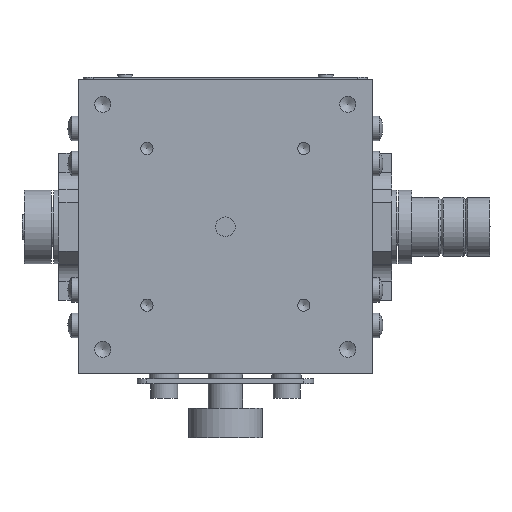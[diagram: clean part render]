
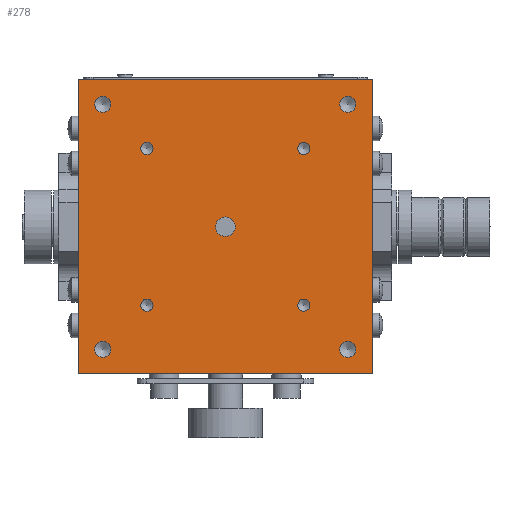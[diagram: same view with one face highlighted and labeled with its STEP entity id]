
A CAD part, top view. The second image highlights one B-rep face of the part: STEP entity #278.
In plain terms, the highlighted planar face has unit normal (0, 0, 1).
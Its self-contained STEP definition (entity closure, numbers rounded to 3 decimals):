
#278 = ADVANCED_FACE( '', ( #631, #632, #633, #634, #635, #636, #637, #638, #639, #640 ), #641, .T. );
#631 = FACE_BOUND( '', #1138, .T. );
#632 = FACE_BOUND( '', #1139, .T. );
#633 = FACE_BOUND( '', #1140, .T. );
#634 = FACE_BOUND( '', #1141, .T. );
#635 = FACE_BOUND( '', #1142, .T. );
#636 = FACE_BOUND( '', #1143, .T. );
#637 = FACE_BOUND( '', #1144, .T. );
#638 = FACE_BOUND( '', #1145, .T. );
#639 = FACE_OUTER_BOUND( '', #1146, .T. );
#640 = FACE_BOUND( '', #1147, .T. );
#641 = PLANE( '', #1148 );
#1138 = EDGE_LOOP( '', ( #2174 ) );
#1139 = EDGE_LOOP( '', ( #2175 ) );
#1140 = EDGE_LOOP( '', ( #2176 ) );
#1141 = EDGE_LOOP( '', ( #2177 ) );
#1142 = EDGE_LOOP( '', ( #2178 ) );
#1143 = EDGE_LOOP( '', ( #2179 ) );
#1144 = EDGE_LOOP( '', ( #2180 ) );
#1145 = EDGE_LOOP( '', ( #2181 ) );
#1146 = EDGE_LOOP( '', ( #2182, #2183, #2184, #2185 ) );
#1147 = EDGE_LOOP( '', ( #2186 ) );
#1148 = AXIS2_PLACEMENT_3D( '', #2187, #2188, #2189 );
#2174 = ORIENTED_EDGE( '', *, *, #2907, .T. );
#2175 = ORIENTED_EDGE( '', *, *, #2908, .T. );
#2176 = ORIENTED_EDGE( '', *, *, #2909, .T. );
#2177 = ORIENTED_EDGE( '', *, *, #2910, .T. );
#2178 = ORIENTED_EDGE( '', *, *, #2911, .T. );
#2179 = ORIENTED_EDGE( '', *, *, #2912, .T. );
#2180 = ORIENTED_EDGE( '', *, *, #2913, .T. );
#2181 = ORIENTED_EDGE( '', *, *, #2914, .T. );
#2182 = ORIENTED_EDGE( '', *, *, #2915, .F. );
#2183 = ORIENTED_EDGE( '', *, *, #2903, .T. );
#2184 = ORIENTED_EDGE( '', *, *, #2916, .T. );
#2185 = ORIENTED_EDGE( '', *, *, #2917, .F. );
#2186 = ORIENTED_EDGE( '', *, *, #2918, .T. );
#2187 = CARTESIAN_POINT( '', ( 0., 0., 25. ) );
#2188 = DIRECTION( '', ( 0., 0., 1. ) );
#2189 = DIRECTION( '', ( -1., 0., 0. ) );
#2903 = EDGE_CURVE( '', #3436, #3434, #3437, .T. );
#2907 = EDGE_CURVE( '', #3443, #3443, #3444, .T. );
#2908 = EDGE_CURVE( '', #3445, #3445, #3446, .T. );
#2909 = EDGE_CURVE( '', #3447, #3447, #3448, .T. );
#2910 = EDGE_CURVE( '', #3449, #3449, #3450, .T. );
#2911 = EDGE_CURVE( '', #3451, #3451, #3452, .T. );
#2912 = EDGE_CURVE( '', #3453, #3453, #3454, .T. );
#2913 = EDGE_CURVE( '', #3455, #3455, #3456, .T. );
#2914 = EDGE_CURVE( '', #3457, #3457, #3458, .T. );
#2915 = EDGE_CURVE( '', #3436, #3459, #3460, .T. );
#2916 = EDGE_CURVE( '', #3434, #3461, #3462, .T. );
#2917 = EDGE_CURVE( '', #3459, #3461, #3463, .T. );
#2918 = EDGE_CURVE( '', #3464, #3464, #3465, .T. );
#3434 = VERTEX_POINT( '', #4456 );
#3436 = VERTEX_POINT( '', #4459 );
#3437 = LINE( '', #4460, #4461 );
#3443 = VERTEX_POINT( '', #4468 );
#3444 = CIRCLE( '', #4469, 1.25 );
#3445 = VERTEX_POINT( '', #4470 );
#3446 = CIRCLE( '', #4471, 1.25 );
#3447 = VERTEX_POINT( '', #4472 );
#3448 = CIRCLE( '', #4473, 1.25 );
#3449 = VERTEX_POINT( '', #4474 );
#3450 = CIRCLE( '', #4475, 1.25 );
#3451 = VERTEX_POINT( '', #4476 );
#3452 = CIRCLE( '', #4477, 1.65 );
#3453 = VERTEX_POINT( '', #4478 );
#3454 = CIRCLE( '', #4479, 1.65 );
#3455 = VERTEX_POINT( '', #4480 );
#3456 = CIRCLE( '', #4481, 1.65 );
#3457 = VERTEX_POINT( '', #4482 );
#3458 = CIRCLE( '', #4483, 1.65 );
#3459 = VERTEX_POINT( '', #4484 );
#3460 = LINE( '', #4485, #4486 );
#3461 = VERTEX_POINT( '', #4487 );
#3462 = LINE( '', #4488, #4489 );
#3463 = LINE( '', #4490, #4491 );
#3464 = VERTEX_POINT( '', #4492 );
#3465 = CIRCLE( '', #4493, 2. );
#4456 = CARTESIAN_POINT( '', ( 30., 30., 25. ) );
#4459 = CARTESIAN_POINT( '', ( 30., -30., 25. ) );
#4460 = CARTESIAN_POINT( '', ( 30., 0., 25. ) );
#4461 = VECTOR( '', #5094, 1000. );
#4468 = CARTESIAN_POINT( '', ( 17.25, -16., 25. ) );
#4469 = AXIS2_PLACEMENT_3D( '', #5102, #5103, #5104 );
#4470 = CARTESIAN_POINT( '', ( 17.25, 16., 25. ) );
#4471 = AXIS2_PLACEMENT_3D( '', #5105, #5106, #5107 );
#4472 = CARTESIAN_POINT( '', ( -14.75, 16., 25. ) );
#4473 = AXIS2_PLACEMENT_3D( '', #5108, #5109, #5110 );
#4474 = CARTESIAN_POINT( '', ( -14.75, -16., 25. ) );
#4475 = AXIS2_PLACEMENT_3D( '', #5111, #5112, #5113 );
#4476 = CARTESIAN_POINT( '', ( 25., -26.65, 25. ) );
#4477 = AXIS2_PLACEMENT_3D( '', #5114, #5115, #5116 );
#4478 = CARTESIAN_POINT( '', ( 25., 23.35, 25. ) );
#4479 = AXIS2_PLACEMENT_3D( '', #5117, #5118, #5119 );
#4480 = CARTESIAN_POINT( '', ( -25., 23.35, 25. ) );
#4481 = AXIS2_PLACEMENT_3D( '', #5120, #5121, #5122 );
#4482 = CARTESIAN_POINT( '', ( -25., -26.65, 25. ) );
#4483 = AXIS2_PLACEMENT_3D( '', #5123, #5124, #5125 );
#4484 = CARTESIAN_POINT( '', ( -30., -30., 25. ) );
#4485 = CARTESIAN_POINT( '', ( 0., -30., 25. ) );
#4486 = VECTOR( '', #5126, 1000. );
#4487 = CARTESIAN_POINT( '', ( -30., 30., 25. ) );
#4488 = CARTESIAN_POINT( '', ( 0., 30., 25. ) );
#4489 = VECTOR( '', #5127, 1000. );
#4490 = CARTESIAN_POINT( '', ( -30., 0., 25. ) );
#4491 = VECTOR( '', #5128, 1000. );
#4492 = CARTESIAN_POINT( '', ( 0., 2., 25. ) );
#4493 = AXIS2_PLACEMENT_3D( '', #5129, #5130, #5131 );
#5094 = DIRECTION( '', ( 0., 1., 0. ) );
#5102 = CARTESIAN_POINT( '', ( 16., -16., 25. ) );
#5103 = DIRECTION( '', ( 0., 0., -1. ) );
#5104 = DIRECTION( '', ( 1., 0., 0. ) );
#5105 = CARTESIAN_POINT( '', ( 16., 16., 25. ) );
#5106 = DIRECTION( '', ( 0., 0., -1. ) );
#5107 = DIRECTION( '', ( 1., 0., 0. ) );
#5108 = CARTESIAN_POINT( '', ( -16., 16., 25. ) );
#5109 = DIRECTION( '', ( 0., 0., -1. ) );
#5110 = DIRECTION( '', ( 1., 0., 0. ) );
#5111 = CARTESIAN_POINT( '', ( -16., -16., 25. ) );
#5112 = DIRECTION( '', ( 0., 0., -1. ) );
#5113 = DIRECTION( '', ( 1., 0., 0. ) );
#5114 = CARTESIAN_POINT( '', ( 25., -25., 25. ) );
#5115 = DIRECTION( '', ( 0., 0., -1. ) );
#5116 = DIRECTION( '', ( 0., -1., 0. ) );
#5117 = CARTESIAN_POINT( '', ( 25., 25., 25. ) );
#5118 = DIRECTION( '', ( 0., 0., -1. ) );
#5119 = DIRECTION( '', ( 0., -1., 0. ) );
#5120 = CARTESIAN_POINT( '', ( -25., 25., 25. ) );
#5121 = DIRECTION( '', ( 0., 0., -1. ) );
#5122 = DIRECTION( '', ( 0., -1., 0. ) );
#5123 = CARTESIAN_POINT( '', ( -25., -25., 25. ) );
#5124 = DIRECTION( '', ( 0., 0., -1. ) );
#5125 = DIRECTION( '', ( 0., -1., 0. ) );
#5126 = DIRECTION( '', ( -1., 0., 0. ) );
#5127 = DIRECTION( '', ( -1., 0., 0. ) );
#5128 = DIRECTION( '', ( 0., 1., 0. ) );
#5129 = CARTESIAN_POINT( '', ( 0., 0., 25. ) );
#5130 = DIRECTION( '', ( 0., 0., -1. ) );
#5131 = DIRECTION( '', ( 0., 1., 0. ) );
